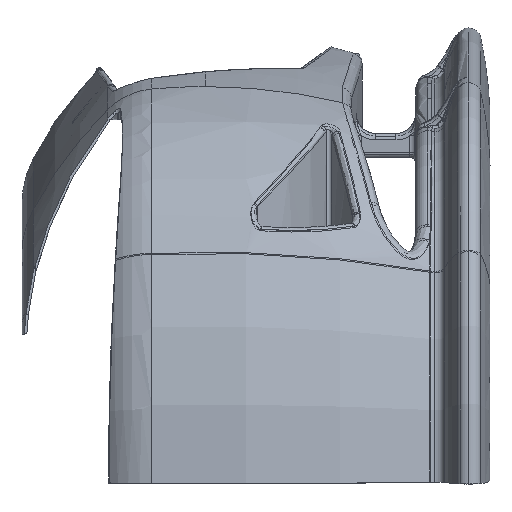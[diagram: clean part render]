
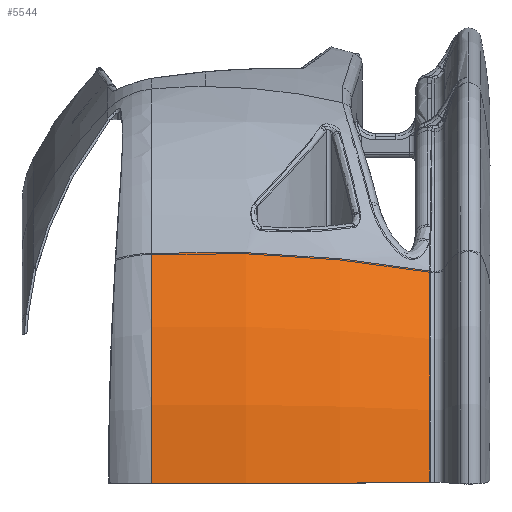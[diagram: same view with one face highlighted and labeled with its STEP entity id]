
A CAD part, left-side view. The second image highlights one B-rep face of the part: STEP entity #5544.
In plain terms, the highlighted free-form (B-spline) face has degree [3, 3] with [4, 4] control points.
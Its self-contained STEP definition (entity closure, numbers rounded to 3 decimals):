
#5544=ADVANCED_FACE('9263',(#13574),#13575,.T.);
#9040=EDGE_CURVE('11110',#18702,#18705,#18706,.T.);
#9078=EDGE_CURVE('11131',#18702,#18750,#18753,.T.);
#9080=EDGE_CURVE('12310',#18755,#18750,#18756,.T.);
#9082=EDGE_CURVE('11130',#18705,#18755,#18758,.T.);
#13574=FACE_OUTER_BOUND('',#28337,.T.);
#13575=(B_SPLINE_SURFACE(3,3,((#28339,#28340,#28341,#28342),(#28343,#28344,#28345,#28346),(#28347,#28348,#28349,#28350),(#28351,#28352,#28353,#28354)),.UNSPECIFIED.,.F.,.F.,.F.)B_SPLINE_SURFACE_WITH_KNOTS((4,4),(4,4),(0.019,0.981),(0.019,0.981),.UNSPECIFIED.)RATIONAL_B_SPLINE_SURFACE(((1.029,1.009,1.009,1.029),(1.011,0.99,0.99,1.011),(1.011,0.99,0.99,1.011),(1.029,1.009,1.009,1.029)))BOUNDED_SURFACE()REPRESENTATION_ITEM('')GEOMETRIC_REPRESENTATION_ITEM()SURFACE());
#18702=VERTEX_POINT('',#59855);
#18705=VERTEX_POINT('',#59859);
#18706=CIRCLE('',#59860,309.534);
#18750=VERTEX_POINT('',#59926);
#18753=CIRCLE('',#59930,249.023);
#18755=VERTEX_POINT('',#59933);
#18756=CIRCLE('',#59934,309.534);
#18758=CIRCLE('',#59937,272.144);
#28337=EDGE_LOOP('',(#74964,#74965,#74966,#74967));
#28339=CARTESIAN_POINT('',(-345.049,-217.414,20.761));
#28340=CARTESIAN_POINT('',(-365.086,-170.027,20.032));
#28341=CARTESIAN_POINT('',(-372.947,-119.178,19.746));
#28342=CARTESIAN_POINT('',(-368.154,-67.947,19.92));
#28343=CARTESIAN_POINT('',(-346.474,-217.414,59.905));
#28344=CARTESIAN_POINT('',(-366.626,-170.027,62.328));
#28345=CARTESIAN_POINT('',(-374.532,-119.178,63.278));
#28346=CARTESIAN_POINT('',(-369.712,-67.947,62.699));
#28347=CARTESIAN_POINT('',(-338.792,-217.414,98.315));
#28348=CARTESIAN_POINT('',(-358.326,-170.027,103.83));
#28349=CARTESIAN_POINT('',(-365.989,-119.178,105.993));
#28350=CARTESIAN_POINT('',(-361.317,-67.947,104.674));
#28351=CARTESIAN_POINT('',(-322.422,-217.414,133.9));
#28352=CARTESIAN_POINT('',(-340.637,-170.027,142.28));
#28353=CARTESIAN_POINT('',(-347.783,-119.178,145.567));
#28354=CARTESIAN_POINT('',(-343.426,-67.947,143.563));
#59855=CARTESIAN_POINT('',(-345.049,-217.414,20.761));
#59859=CARTESIAN_POINT('',(-368.154,-67.947,19.92));
#59860=AXIS2_PLACEMENT_3D('',#82696,#82697,#82698);
#59926=CARTESIAN_POINT('',(-322.422,-217.414,133.9));
#59930=AXIS2_PLACEMENT_3D('',#82748,#82749,#82750);
#59933=CARTESIAN_POINT('',(-343.426,-67.947,143.563));
#59934=AXIS2_PLACEMENT_3D('',#82751,#82752,#82753);
#59937=AXIS2_PLACEMENT_3D('',#82754,#82755,#82756);
#74964=ORIENTED_EDGE('',*,*,#9078,.T.);
#74965=ORIENTED_EDGE('',*,*,#9080,.F.);
#74966=ORIENTED_EDGE('',*,*,#9082,.F.);
#74967=ORIENTED_EDGE('',*,*,#9040,.F.);
#82696=CARTESIAN_POINT('',(-60.172,-96.796,31.133));
#82697=DIRECTION('',(0.036,0.,-0.999));
#82698=DIRECTION('',(-0.92,-0.39,-0.034));
#82748=CARTESIAN_POINT('',(-96.191,-217.414,29.822));
#82749=DIRECTION('',(0.0,1.0,0.0));
#82750=DIRECTION('',(-0.999,0.0,-0.036));
#82751=CARTESIAN_POINT('',(-63.447,-96.796,14.758));
#82752=DIRECTION('',(0.418,0.,0.908));
#82753=DIRECTION('',(-0.905,0.093,0.416));
#82754=CARTESIAN_POINT('',(-96.191,-67.947,29.822));
#82755=DIRECTION('',(0.0,1.0,0.0));
#82756=DIRECTION('',(-0.999,0.0,-0.036));
